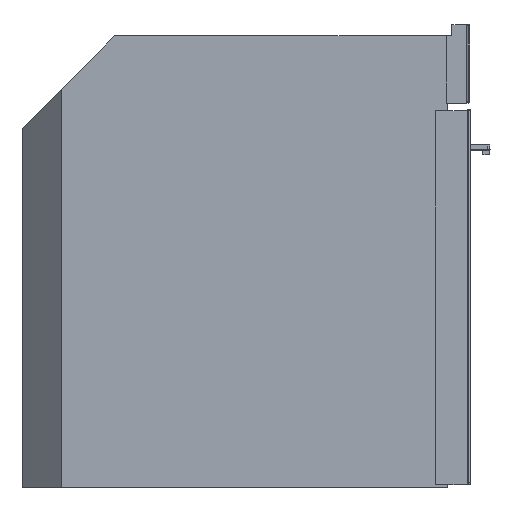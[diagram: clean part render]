
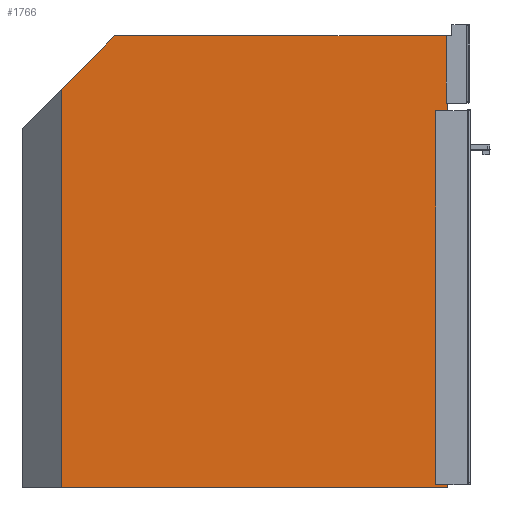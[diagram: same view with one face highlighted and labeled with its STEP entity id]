
A CAD part, left-side view. The second image highlights one B-rep face of the part: STEP entity #1766.
In plain terms, the highlighted planar face has unit normal (-1, 0, 0).
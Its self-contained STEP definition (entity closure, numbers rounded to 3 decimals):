
#1766=ADVANCED_FACE('',(#3694),#2687,.T.);
#2687=PLANE('',#23214);
#3694=FACE_OUTER_BOUND('',#5145,.T.);
#5145=EDGE_LOOP('',(#16676,#16677,#16678,#16679,#16680,#16681,#16682,#16683,
#16684,#16685,#16686));
#7879=LINE('',#34949,#10674);
#7880=LINE('',#34951,#10675);
#7888=LINE('',#34969,#10683);
#7898=LINE('',#34987,#10693);
#7907=LINE('',#35005,#10702);
#7908=LINE('',#35007,#10703);
#7909=LINE('',#35009,#10704);
#7910=LINE('',#35011,#10705);
#7911=LINE('',#35013,#10706);
#7912=LINE('',#35015,#10707);
#7913=LINE('',#35017,#10708);
#10674=VECTOR('',#28378,1.);
#10675=VECTOR('',#28381,1.);
#10683=VECTOR('',#28393,1.);
#10693=VECTOR('',#28407,1.);
#10702=VECTOR('',#28426,1.);
#10703=VECTOR('',#28427,1.);
#10704=VECTOR('',#28428,1.);
#10705=VECTOR('',#28429,1.);
#10706=VECTOR('',#28430,1.);
#10707=VECTOR('',#28431,1.);
#10708=VECTOR('',#28432,1.);
#16676=ORIENTED_EDGE('',*,*,#21750,.F.);
#16677=ORIENTED_EDGE('',*,*,#21722,.T.);
#16678=ORIENTED_EDGE('',*,*,#21731,.T.);
#16679=ORIENTED_EDGE('',*,*,#21723,.T.);
#16680=ORIENTED_EDGE('',*,*,#21741,.F.);
#16681=ORIENTED_EDGE('',*,*,#21751,.T.);
#16682=ORIENTED_EDGE('',*,*,#21752,.T.);
#16683=ORIENTED_EDGE('',*,*,#21753,.T.);
#16684=ORIENTED_EDGE('',*,*,#21754,.T.);
#16685=ORIENTED_EDGE('',*,*,#21755,.F.);
#16686=ORIENTED_EDGE('',*,*,#21756,.F.);
#18732=VERTEX_POINT('',#34944);
#18734=VERTEX_POINT('',#34948);
#18735=VERTEX_POINT('',#34952);
#18736=VERTEX_POINT('',#34953);
#18748=VERTEX_POINT('',#34986);
#18753=VERTEX_POINT('',#35006);
#18754=VERTEX_POINT('',#35008);
#18755=VERTEX_POINT('',#35010);
#18756=VERTEX_POINT('',#35012);
#18757=VERTEX_POINT('',#35014);
#18758=VERTEX_POINT('',#35016);
#21722=EDGE_CURVE('',#18732,#18734,#7879,.T.);
#21723=EDGE_CURVE('',#18735,#18736,#7880,.T.);
#21731=EDGE_CURVE('',#18734,#18735,#7888,.T.);
#21741=EDGE_CURVE('',#18748,#18736,#7898,.T.);
#21750=EDGE_CURVE('',#18732,#18753,#7907,.T.);
#21751=EDGE_CURVE('',#18748,#18754,#7908,.T.);
#21752=EDGE_CURVE('',#18754,#18755,#7909,.T.);
#21753=EDGE_CURVE('',#18755,#18756,#7910,.T.);
#21754=EDGE_CURVE('',#18756,#18757,#7911,.T.);
#21755=EDGE_CURVE('',#18758,#18757,#7912,.T.);
#21756=EDGE_CURVE('',#18753,#18758,#7913,.T.);
#23214=AXIS2_PLACEMENT_3D('',#35018,#28433,#28434);
#28378=DIRECTION('',(0.,0.,1.));
#28381=DIRECTION('',(0.,0.,1.));
#28393=DIRECTION('',(0.,1.,0.));
#28407=DIRECTION('',(0.,-1.,0.));
#28426=DIRECTION('',(0.,1.,0.));
#28427=DIRECTION('',(0.,0.707,-0.707));
#28428=DIRECTION('',(0.,0.,-1.));
#28429=DIRECTION('',(0.,-1.,0.));
#28430=DIRECTION('',(0.,0.,1.));
#28431=DIRECTION('',(0.,-1.,0.));
#28432=DIRECTION('',(0.,0.,-1.));
#28433=DIRECTION('',(-1.,0.,0.));
#28434=DIRECTION('',(0.,-1.,0.));
#34944=CARTESIAN_POINT('',(-275.3,-458.2,236.05));
#34948=CARTESIAN_POINT('',(-275.3,-458.2,246.));
#34949=CARTESIAN_POINT('',(-275.3,-458.2,-245.05));
#34951=CARTESIAN_POINT('',(-275.3,-456.932,246.));
#34952=CARTESIAN_POINT('',(-275.3,-456.932,246.));
#34953=CARTESIAN_POINT('',(-275.3,-456.932,331.6));
#34969=CARTESIAN_POINT('',(-275.3,-482.9,246.));
#34986=CARTESIAN_POINT('',(-275.3,-33.37,331.6));
#34987=CARTESIAN_POINT('',(-275.3,-1.87,331.6));
#35005=CARTESIAN_POINT('',(-275.3,-1.87,236.05));
#35006=CARTESIAN_POINT('',(-275.3,-443.304,236.05));
#35007=CARTESIAN_POINT('',(-275.3,270.705,27.525));
#35008=CARTESIAN_POINT('',(-275.3,34.63,263.6));
#35009=CARTESIAN_POINT('',(-275.3,34.63,-245.05));
#35010=CARTESIAN_POINT('',(-275.3,34.63,-245.05));
#35011=CARTESIAN_POINT('',(-275.3,-1.87,-245.05));
#35012=CARTESIAN_POINT('',(-275.3,-458.2,-245.05));
#35013=CARTESIAN_POINT('',(-275.3,-458.2,-245.05));
#35014=CARTESIAN_POINT('',(-275.3,-458.2,-241.));
#35015=CARTESIAN_POINT('',(-275.3,-1.87,-241.));
#35016=CARTESIAN_POINT('',(-275.3,-443.304,-241.));
#35017=CARTESIAN_POINT('',(-275.3,-443.304,-245.05));
#35018=CARTESIAN_POINT('',(-275.3,-1.87,-245.05));
